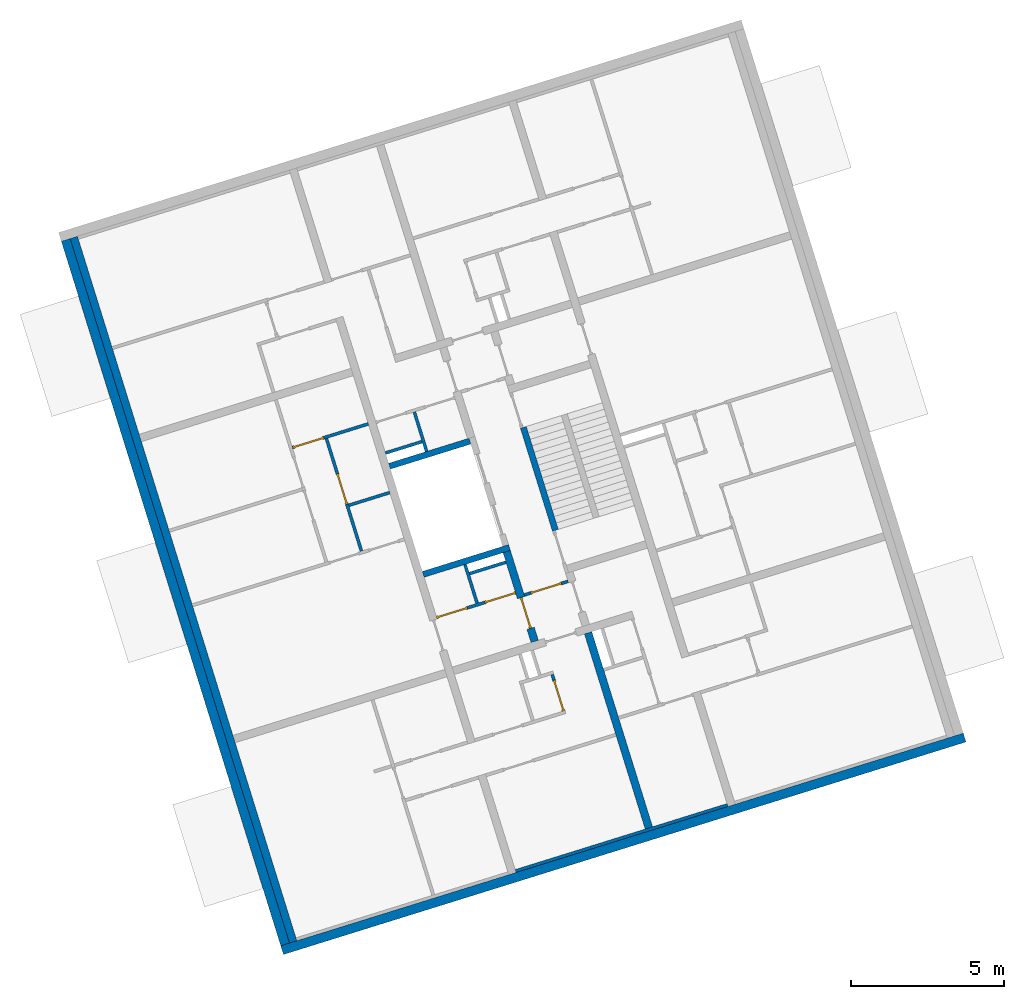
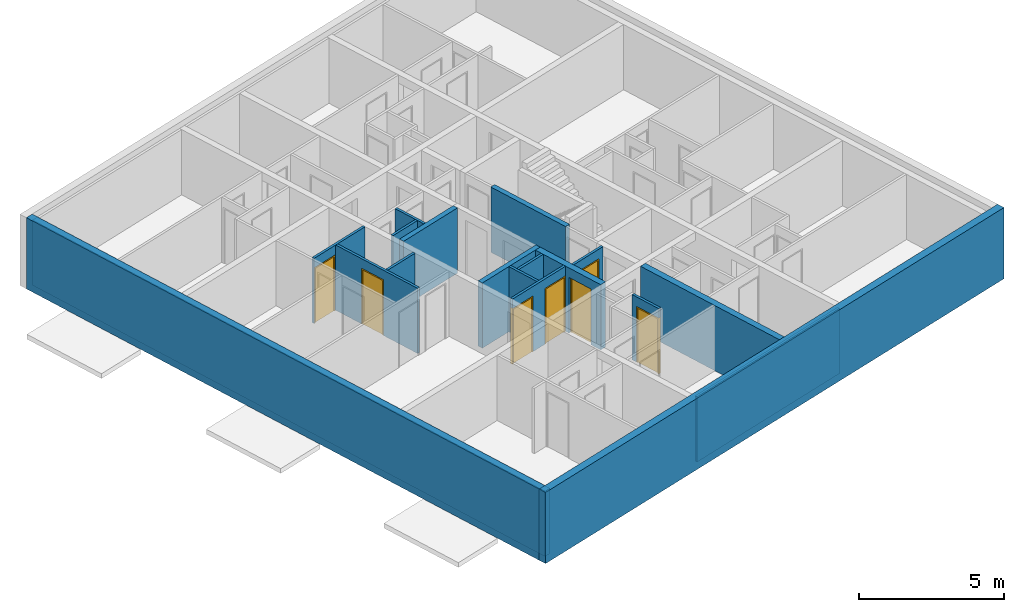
# One storey, part 2 of 9: 19 walls, 7 doors, 7 openings.
"""IFC4 building model written with IfcOpenShell, lengths in metres."""

import ifcopenshell
import ifcopenshell.guid

model = None  # the IFC model being written
_history = None  # IfcOwnerHistory: only IFC2X3 demands one
_inside = {}  # id of a spatial element -> (the spatial element, [elements in it])
_under = {}  # id of a project, library or spatial element -> (it, [spatial elements below it])
_declared = {}  # id of a project -> (the project, [libraries it declares])
_typed = {}  # id of a type object -> (the type object, [elements of that type])
_made_of = {}  # id of a material, layer set ... -> (it, [elements and type objects made of it])


def new_model(schema):
    """Start an empty IFC model of exactly this schema.

    Asked for "IFC4X3", IfcOpenShell would pick the latest addendum, in which some entities
    have other attributes; the version numbers below select the first issue.
    IFC2X3 requires an IfcOwnerHistory on every rooted entity: one is made here for all.
    """
    global model, _history
    if schema == "IFC4X3":
        model = ifcopenshell.file(schema_version=(4, 3, 0, 0))
    else:
        model = ifcopenshell.file(schema=schema)
    _inside.clear()
    _under.clear()
    _declared.clear()
    _typed.clear()
    _made_of.clear()
    _history = None
    if model.schema == "IFC2X3":
        org = make("IfcOrganization", Name="unknown")
        user = make(
            "IfcPersonAndOrganization",
            ThePerson=make("IfcPerson", FamilyName="unknown"),
            TheOrganization=org,
        )
        app = make(
            "IfcApplication",
            ApplicationDeveloper=org,
            Version="unknown",
            ApplicationFullName="unknown",
            ApplicationIdentifier="unknown",
        )
        _history = make(
            "IfcOwnerHistory",
            OwningUser=user,
            OwningApplication=app,
            ChangeAction="ADDED",
            CreationDate=0,
        )
    return model


def make(cls, **values):
    """One entity of the class cls with the attributes given. An attribute that is None is left unset."""
    return model.create_entity(
        cls, **{name: value for name, value in values.items() if value is not None}
    )


def entity(cls, *values):
    """Any entity or typed value of the class cls, its attributes in the order of the schema. None: left unset."""
    e = model.create_entity(cls)
    for i, value in enumerate(values):
        if value is not None:
            e[i] = value
    return e


def rooted(cls, **values):
    """An entity with a GlobalId (a new one), such as an element, a storey or a relation."""
    return make(cls, GlobalId=ifcopenshell.guid.new(), OwnerHistory=_history, **values)


def si_unit(unit_type, name, prefix=None):
    """IfcSIUnit, for example si_unit("LENGTHUNIT", "METRE", prefix="MILLI")."""
    return make("IfcSIUnit", UnitType=unit_type, Prefix=prefix, Name=name)


def converted_unit(unit_type, name, factor, base, dimensions=None, offset=None):
    """IfcConversionBasedUnit, such as the inch: factor (a typed value) times the base unit."""
    return make(
        "IfcConversionBasedUnit"
        if offset is None
        else "IfcConversionBasedUnitWithOffset",
        ConversionOffset=offset,
        Dimensions=None
        if dimensions is None
        else entity("IfcDimensionalExponents", *dimensions),
        UnitType=unit_type,
        Name=name,
        ConversionFactor=make(
            "IfcMeasureWithUnit", ValueComponent=factor, UnitComponent=base
        ),
    )


def assignment(units):
    """IfcUnitAssignment: the units of a project."""
    return None if units is None else make("IfcUnitAssignment", Units=units)


def point(xyz):
    """IfcCartesianPoint."""
    return None if xyz is None else make("IfcCartesianPoint", Coordinates=xyz)


def direction(xyz):
    """IfcDirection."""
    return None if xyz is None else make("IfcDirection", DirectionRatios=xyz)


def frame(location, z_axis=None, x_axis=None):
    """IfcAxis2Placement3D, a coordinate frame: its origin and axes. An axis left out is left unset."""
    return make(
        "IfcAxis2Placement3D",
        Location=point(location),
        Axis=direction(z_axis),
        RefDirection=direction(x_axis),
    )


def origin():
    """The frame at (0, 0, 0) with its axes left unset."""
    return frame((0.0, 0.0, 0.0))


def place(relative_to, where):
    """IfcLocalPlacement: puts the frame where relative to a parent placement (None: the world)."""
    return make(
        "IfcLocalPlacement", PlacementRelTo=relative_to, RelativePlacement=where
    )


def context(
    kind, dimensions, precision=None, world=None, true_north=None, identifier=None
):
    """IfcGeometricRepresentationContext, for example the 3D "Model" context."""
    return make(
        "IfcGeometricRepresentationContext",
        ContextIdentifier=identifier,
        ContextType=kind,
        CoordinateSpaceDimension=dimensions,
        Precision=precision,
        WorldCoordinateSystem=world,
        TrueNorth=true_north,
    )


def subcontext(parent, identifier, kind, view, scale=None):
    """IfcGeometricRepresentationSubContext, for example "Body" below "Model"."""
    return make(
        "IfcGeometricRepresentationSubContext",
        ContextIdentifier=identifier,
        ContextType=kind,
        ParentContext=parent,
        TargetScale=scale,
        TargetView=view,
    )


def project(units=None, contexts=None):
    """IfcProject with its units and contexts."""
    return rooted(
        "IfcProject",
        Name="project",
        RepresentationContexts=contexts,
        UnitsInContext=assignment(units),
    )


def spatial(cls, under=None, at=None, **own):
    """A site, building, storey or space (cls), placed at a placement, below another one or the project."""
    s = rooted(cls, ObjectPlacement=at, **own)
    if under is not None:
        _under.setdefault(under.id(), (under, []))[1].append(s)
    return s


def point_list(points):
    """IfcCartesianPointList2D or 3D."""
    cls = (
        "IfcCartesianPointList2D" if len(points[0]) == 2 else "IfcCartesianPointList3D"
    )
    return make(cls, CoordList=points)


def indexed_curve(points, segments=None, self_intersect=None):
    """IfcIndexedPolyCurve: lines and arcs through numbered points (the first is 1)."""
    return make(
        "IfcIndexedPolyCurve",
        Points=point_list(points),
        Segments=segments,
        SelfIntersect=self_intersect,
    )


def outline(outer, holes=None, kind="AREA"):
    """IfcArbitraryClosedProfileDef: a profile drawn as a closed curve; with holes, ...WithVoids."""
    if holes is None:
        return make("IfcArbitraryClosedProfileDef", ProfileType=kind, OuterCurve=outer)
    return make(
        "IfcArbitraryProfileDefWithVoids",
        ProfileType=kind,
        OuterCurve=outer,
        InnerCurves=holes,
    )


def extrude(swept, where, along, depth):
    """IfcExtrudedAreaSolid: the profile swept, set in the frame where, extruded along a direction by depth."""
    return make(
        "IfcExtrudedAreaSolid",
        SweptArea=swept,
        Position=where,
        ExtrudedDirection=direction(along),
        Depth=depth,
    )


def polygons(points, faces, closed=None, point_numbers=None):
    """IfcPolygonalFaceSet: a face is its outer loop, then its inner loops; points numbered from 1."""
    made = []
    for loops in faces:
        if len(loops) == 1:
            made.append(make("IfcIndexedPolygonalFace", CoordIndex=loops[0]))
        else:
            made.append(
                make(
                    "IfcIndexedPolygonalFaceWithVoids",
                    CoordIndex=loops[0],
                    InnerCoordIndices=loops[1:],
                )
            )
    return make(
        "IfcPolygonalFaceSet",
        Coordinates=point_list(points),
        Closed=closed,
        Faces=made,
        PnIndex=point_numbers,
    )


def shape(context_of_items, identifier, shape_type, items):
    """IfcShapeRepresentation: the items that make up one representation, for example the "Body"."""
    return make(
        "IfcShapeRepresentation",
        ContextOfItems=context_of_items,
        RepresentationIdentifier=identifier,
        RepresentationType=shape_type,
        Items=items,
    )


def source(mapping_origin, context_of_items, identifier, shape_type, items):
    """IfcRepresentationMap: a shape defined once, which mapped items show again and again."""
    return make(
        "IfcRepresentationMap",
        MappingOrigin=mapping_origin,
        MappedRepresentation=shape(context_of_items, identifier, shape_type, items),
    )


def transform(
    local_origin,
    x_axis=None,
    y_axis=None,
    z_axis=None,
    scale=None,
    scale2=None,
    scale3=None,
    uniform=True,
):
    """IfcCartesianTransformationOperator3D, or its non-uniform kind. x_axis, y_axis, z_axis: its Axis1, 2, 3."""
    if uniform:
        return make(
            "IfcCartesianTransformationOperator3D",
            Axis1=direction(x_axis),
            Axis2=direction(y_axis),
            LocalOrigin=point(local_origin),
            Scale=scale,
            Axis3=direction(z_axis),
        )
    return make(
        "IfcCartesianTransformationOperator3DnonUniform",
        Axis1=direction(x_axis),
        Axis2=direction(y_axis),
        LocalOrigin=point(local_origin),
        Scale=scale,
        Axis3=direction(z_axis),
        Scale2=scale2,
        Scale3=scale3,
    )


def mapped(mapping_source, mapping_target):
    """IfcMappedItem: shows the shape of a source again, moved by a transform."""
    return make(
        "IfcMappedItem", MappingSource=mapping_source, MappingTarget=mapping_target
    )


def material(Name=None, Category=None):
    """IfcMaterial."""
    return make("IfcMaterial", Name=Name, Category=Category)


def constituent(of_material, Name=None, Category=None, fraction=None):
    """IfcMaterialConstituent: one of the materials an element consists of."""
    return make(
        "IfcMaterialConstituent",
        Name=Name,
        Material=of_material,
        Fraction=fraction,
        Category=Category,
    )


def constituent_set(constituents=None, Name=None):
    """IfcMaterialConstituentSet."""
    return make(
        "IfcMaterialConstituentSet", Name=Name, MaterialConstituents=constituents
    )


def made_of(thing, what):
    """Note that an element or type object is made of a material, layer set ...; save() writes the relation."""
    if what is not None:
        _made_of.setdefault(what.id(), (what, []))[1].append(thing)
    return thing


def type_object(cls, material=None, **own):
    """A type object (cls), such as IfcWallType, which elements share."""
    return made_of(rooted(cls, **own), material)


def type_shapes(of_type, sources):
    """Give a type object the sources (RepresentationMaps) that its elements show as mapped items."""
    of_type.RepresentationMaps = sources


def element(
    cls,
    number,
    at=None,
    inside=None,
    cuts=None,
    type_object=None,
    material=None,
    context=None,
    identifier="Body",
    shape_type=None,
    held_by="IfcProductDefinitionShape",
    body=None,
    shapes=None,
    **own,
):
    """One element of the class cls, such as IfcWall. Its Tag is "e" and its number.

    at: its placement. inside: the storey or other place that contains it. cuts: it is an
    opening in that element (IfcRelVoidsElement). A single representation is given by context,
    identifier, shape_type and body (its items); several are given by shapes. held_by: the class
    of the entity that holds the representations. save() writes the other relations.
    """
    e = rooted(cls, Tag="e%d" % number, ObjectPlacement=at, **own)
    if body is not None:
        shapes = [shape(context, identifier, shape_type, body)]
    if shapes is not None:
        e.Representation = make(held_by, Representations=shapes)
    if inside is not None:
        _inside.setdefault(inside.id(), (inside, []))[1].append(e)
    if cuts is not None:
        rooted(
            "IfcRelVoidsElement", RelatingBuildingElement=cuts, RelatedOpeningElement=e
        )
    if type_object is not None:
        _typed.setdefault(type_object.id(), (type_object, []))[1].append(e)
    return made_of(e, material)


def fill(opening, filler):
    """IfcRelFillsElement: the door or window that sits in an opening."""
    return rooted(
        "IfcRelFillsElement",
        RelatingOpeningElement=opening,
        RelatedBuildingElement=filler,
    )


def aggregate(whole, parts):
    """IfcRelAggregates: a whole, such as a stair, and the parts it consists of."""
    return rooted("IfcRelAggregates", RelatingObject=whole, RelatedObjects=parts)


def save(model, path):
    """Write the relations noted so far, then the file.

    IfcRelAggregates (storeys below a building ...), IfcRelContainedInSpatialStructure (elements
    in a storey), IfcRelDefinesByType, IfcRelAssociatesMaterial and IfcRelDeclares: one each for
    every whole, place, type object, material and project.
    """
    for whole, parts in _under.values():
        aggregate(whole, parts)
    for where, things in _inside.values():
        rooted(
            "IfcRelContainedInSpatialStructure",
            RelatedElements=things,
            RelatingStructure=where,
        )
    for kind, things in _typed.values():
        rooted("IfcRelDefinesByType", RelatedObjects=things, RelatingType=kind)
    for what, things in _made_of.values():
        rooted("IfcRelAssociatesMaterial", RelatedObjects=things, RelatingMaterial=what)
    for by, libraries in _declared.values():
        rooted("IfcRelDeclares", RelatingContext=by, RelatedDefinitions=libraries)
    model.write(path)


model = new_model("IFC4")

# Units and contexts
model_context = context("Model", 3, precision=1e-05, world=origin(), true_north=direction((6.12323399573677e-17, 1.0)))
body_context = subcontext(model_context, "Body", "Model", "MODEL_VIEW")
ifc_project = project(units=[si_unit("LENGTHUNIT", "METRE"), si_unit("AREAUNIT", "SQUARE_METRE"), si_unit("VOLUMEUNIT", "CUBIC_METRE"), converted_unit("PLANEANGLEUNIT", "DEGREE", entity("IfcPlaneAngleMeasure", 0.0174532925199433), si_unit("PLANEANGLEUNIT", "RADIAN"), dimensions=[0, 0, 0, 0, 0, 0, 0])], contexts=[model_context])

# Site, building, storey
site_placement = place(None, frame((13.1347999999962, 11.9886000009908, 0.0), z_axis=(0.0, 0.0, 1.0), x_axis=(0.954770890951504, 0.297342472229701, 0.0)))
site = spatial("IfcSite", under=ifc_project, at=site_placement, Name="Schiehaven", CompositionType="ELEMENT")
building_placement = place(site_placement, origin())
building = spatial("IfcBuilding", under=site, at=building_placement, Name="VORM huis", CompositionType="ELEMENT")
storey_placement = place(building_placement, frame((0.0, 0.0, 18.9)))
storey = spatial("IfcBuildingStorey", under=building, at=storey_placement, Name="06 zesde verdieping", CompositionType="ELEMENT", Elevation=18.9)

# Walls
ifc_material_1 = material(Name="beton_gewapend_ihw", Category="Miscellaneous")
wall_type_1 = type_object("IfcWallType", Name="Basic Wall:28_WA_skelet_wand 250mm_gen", PredefinedType="STANDARD")
wall_1_placement = place(storey_placement, frame((5.0, 5.0, 0.0), z_axis=(0.0, 0.0, 1.0), x_axis=(0.0, 1.0, 0.0)))
element("IfcWall", 1, at=wall_1_placement, inside=storey, type_object=wall_type_1, material=ifc_material_1, Name="Constructieve wand", ObjectType="Wand", PredefinedType="NOTDEFINED", context=body_context, shape_type="SweptSolid", body=[
    extrude(outline(indexed_curve([(24.1, 0.125), (4.21737840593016e-16, 0.125), (-4.21737840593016e-16, -0.125), (24.1, -0.125), (24.1, 0.125)], self_intersect=False)), origin(), (0.0, 0.0, 1.0), 2.75),
])
ifc_material_2 = material(Name="ntb_ntb_ntb", Category="Miscellaneous")
wall_type_2 = type_object("IfcWallType", Name="Basic Wall:21_WA_gevel_binnenspouwwand 100mm_gen", PredefinedType="STANDARD")
wall_2_placement = place(storey_placement, frame((19.875, 5.04999999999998, 0.0), z_axis=(0.0, 0.0, 1.0), x_axis=(-1.0, 0.0, 0.0)))
element("IfcWall", 2, at=wall_2_placement, inside=storey, type_object=wall_type_2, material=ifc_material_2, Name="Binnenspouwblad", ObjectType="Wand", PredefinedType="NOTDEFINED", context=body_context, shape_type="SweptSolid", body=[
    extrude(outline(indexed_curve([(7.24999999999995, 0.0499999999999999), (-3.39037421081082e-16, 0.0499999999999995), (3.39037421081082e-16, -0.0499999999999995), (7.24999999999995, -0.049999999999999), (7.24999999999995, 0.0499999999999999)], self_intersect=False)), origin(), (0.0, 0.0, 1.0), 2.75),
])
wall_type_3 = type_object("IfcWallType", Name="Basic Wall: 300mm_gen", PredefinedType="STANDARD")
wall_3_placement = place(storey_placement, frame((4.72500000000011, 5.0, 0.0), z_axis=(0.0, 0.0, 1.0), x_axis=(0.0, 1.0, 0.0)))
element("IfcWall", 3, at=wall_3_placement, inside=storey, type_object=wall_type_3, material=ifc_material_2, Name="Gevelwand", ObjectType="Wand", PredefinedType="NOTDEFINED", context=body_context, shape_type="SweptSolid", body=[
    extrude(outline(indexed_curve([(24.1, 0.15), (-1.57429718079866e-16, 0.15), (1.57429718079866e-16, -0.15), (24.1, -0.15), (24.1, 0.15)], self_intersect=False)), origin(), (0.0, 0.0, 1.0), 3.0),
])
wall_4_placement = place(storey_placement, frame((27.9250000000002, 4.84999999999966, 0.0), z_axis=(0.0, 0.0, 1.0), x_axis=(-1.0, 0.0, 0.0)))
element("IfcWall", 4, at=wall_4_placement, inside=storey, type_object=wall_type_3, material=ifc_material_2, Name="Gevelwand", ObjectType="Wand", PredefinedType="NOTDEFINED", context=body_context, shape_type="SweptSolid", body=[
    extrude(outline(indexed_curve([(23.3500000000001, 0.150000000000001), (2.00830454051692e-15, 0.15), (2.32316397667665e-15, -0.15), (23.3500000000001, -0.15), (23.3500000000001, 0.150000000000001)], self_intersect=False)), origin(), (0.0, 0.0, 1.0), 3.0),
])
ifc_material_3 = material(Name="beton_gewapend_prefab-element", Category="Miscellaneous")
wall_type_4 = type_object("IfcWallType", Name="Basic Wall:28_WA_skelet_wand 200mm_gen", PredefinedType="STANDARD")
wall_5_placement = place(storey_placement, frame((12.6250000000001, 15.2, 0.0)))
element("IfcWall", 5, at=wall_5_placement, inside=storey, type_object=wall_type_4, material=ifc_material_3, Name="Constructieve wand", ObjectType="Wand", PredefinedType="NOTDEFINED", context=body_context, shape_type="SweptSolid", body=[
    extrude(outline(indexed_curve([(2.9500000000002, 0.100000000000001), (-3.51397851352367e-16, 0.100000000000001), (3.51397851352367e-16, -0.100000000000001), (2.9500000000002, -0.100000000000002), (2.9500000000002, 0.100000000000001)], self_intersect=False)), origin(), (0.0, 0.0, 1.0), 2.75),
])
wall_6_placement = place(storey_placement, frame((15.3750000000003, 18.9, 0.0), z_axis=(0.0, 0.0, 1.0), x_axis=(-1.0, 0.0, 0.0)))
element("IfcWall", 6, at=wall_6_placement, inside=storey, type_object=wall_type_4, material=ifc_material_3, Name="Constructieve wand", ObjectType="Wand", PredefinedType="NOTDEFINED", context=body_context, shape_type="SweptSolid", body=[
    extrude(outline(indexed_curve([(2.75000000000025, 0.100000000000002), (-2.05391259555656e-16, 0.100000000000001), (2.05391259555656e-16, -0.100000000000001), (2.75000000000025, -0.0999999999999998), (2.75000000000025, 0.100000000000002)], self_intersect=False)), origin(), (0.0, 0.0, 1.0), 2.75),
])
wall_7_placement = place(storey_placement, frame((17.1750000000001, 15.29, 0.0), z_axis=(0.0, 0.0, 1.0), x_axis=(0.0, 1.0, 0.0)))
element("IfcWall", 7, at=wall_7_placement, inside=storey, type_object=wall_type_4, material=ifc_material_3, Name="Constructieve wand", ObjectType="Wand", PredefinedType="NOTDEFINED", context=body_context, shape_type="SweptSolid", body=[
    extrude(outline(indexed_curve([(3.52, 0.0999999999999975), (-5.13023966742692e-16, 0.0999999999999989), (5.13023966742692e-16, -0.0999999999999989), (3.52, -0.1), (3.52, 0.0999999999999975)], self_intersect=False)), origin(), (0.0, 0.0, 1.0), 2.75),
])
wall_type_5 = type_object("IfcWallType", Name="Basic Wall:22_WA_afbouw_binnenwand 250mm_gen", PredefinedType="STANDARD")
wall_8_placement = place(storey_placement, frame((17.2000000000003, 11.7749999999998, 0.0), z_axis=(0.0, 0.0, 1.0), x_axis=(0.0, -1.0, 0.0)))
element("IfcWall", 8, at=wall_8_placement, inside=storey, type_object=wall_type_5, material=ifc_material_2, Name="Binnenwand", ObjectType="Wand", PredefinedType="NOTDEFINED", context=body_context, shape_type="SweptSolid", body=[
    extrude(outline(indexed_curve([(6.67500000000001, 0.125), (2.50179154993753e-16, 0.125), (-2.50179154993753e-16, -0.125), (6.67500000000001, -0.124999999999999), (6.67500000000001, 0.125)], self_intersect=False)), origin(), (0.0, 0.0, 1.0), 2.75),
])

# Wall, opening, door
wall_9_placement = place(storey_placement, frame((15.4500000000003, 15.0999999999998, 0.0), z_axis=(0.0, 0.0, 1.0), x_axis=(0.0, -1.0, 0.0)))
wall_9 = element("IfcWall", 9, at=wall_9_placement, inside=storey, type_object=wall_type_5, material=ifc_material_2, Name="Binnenwand", ObjectType="Wand", PredefinedType="NOTDEFINED", context=body_context, shape_type="Tessellation", body=[
    polygons([(2.62500000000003, -0.124999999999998, 2.34999999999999), (2.62500000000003, -0.124999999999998, 0.0), (3.07499999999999, -0.124999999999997, 0.0), (3.07499999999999, -0.124999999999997, 2.75), (0.0, -0.124999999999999, 2.75), (0.0, -0.124999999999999, 0.0), (1.57500000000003, -0.125, 0.0), (1.57500000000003, -0.125, 2.34999999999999), (3.07499999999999, 0.125000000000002, 0.0), (2.62500000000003, 0.125000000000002, 0.0), (2.62500000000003, 0.125000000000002, 2.34999999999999), (1.57500000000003, 0.125000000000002, 2.34999999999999), (1.57500000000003, 0.125000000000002, 0.0), (1.475, 0.125000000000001, 0.0), (0.0, 0.125, 0.0), (0.0, 0.125, 2.75), (1.475, 0.125000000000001, 2.75), (1.575, 0.125000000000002, 2.75), (3.07499999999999, 0.125000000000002, 2.75)], [[[1, 2, 3, 4, 5, 6, 7, 8]], [[9, 10, 11, 12, 13, 14, 15, 16, 17, 18, 19]], [[7, 6, 15, 14, 13]], [[4, 3, 9, 19]], [[5, 4, 19, 18, 17, 16]], [[6, 5, 16, 15]], [[13, 12, 8, 7]], [[11, 10, 2, 1]], [[12, 11, 1, 8]], [[3, 2, 10, 9]]], closed=True),
])
opening_1_placement = place(wall_9_placement, frame((1.57500000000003, -0.125000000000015, 0.0)))
opening_1 = element("IfcOpeningElement", 10, at=opening_1_placement, cuts=wall_9, Name="Woningtoegangsdeur", PredefinedType="OPENING", context=body_context, shape_type="SweptSolid", body=[
    extrude(outline(indexed_curve([(2.34999999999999, 1.35358391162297e-15), (2.34999999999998, 1.05), (0.0, 1.05), (2.16573425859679e-15, 1.35358391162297e-15), (2.34999999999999, 1.35358391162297e-15)], self_intersect=False)), frame((0.0, 0.0, 0.0), z_axis=(0.0, 1.0, 0.0), x_axis=(0.0, 0.0, 1.0)), (0.0, 0.0, 1.0), 0.25),
])
ifc_material_4 = material(Name="PD_a_binnenwandopeningen", Category="Miscellaneous")
ifc_constituent_1 = constituent(ifc_material_4, Name="PD_a_binnenwandopeningen", Category="Miscellaneous")
ifc_material_5 = material(Name="metaal_aluminium_ntb", Category="Miscellaneous")
ifc_constituent_2 = constituent(ifc_material_5, Name="metaal_aluminium_ntb", Category="Miscellaneous")
ifc_constituent_set_1 = constituent_set(constituents=[ifc_constituent_1, ifc_constituent_2])
door_type_1 = type_object("IfcDoorType", Name="32_DO_binnendeur enkel:woningtoegangsdeur", OperationType="REVOLVING", PredefinedType="DOOR")
shared_shape_1 = source(origin(), body_context, "Body", "SweptSolid", [
    extrude(outline(indexed_curve([(0.475, -1.16249999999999), (0.525000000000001, -1.16249999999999), (0.525000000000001, 1.18749999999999), (-0.525000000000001, 1.18749999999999), (-0.525000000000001, -1.16249999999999), (-0.475, -1.16249999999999), (-0.475, 1.13749999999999), (0.475, 1.13749999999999), (0.475, -1.16249999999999)], self_intersect=False)), frame((0.525000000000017, 0.174999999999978, 1.16249999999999), z_axis=(0.0, -1.0, 0.0), x_axis=(1.0, 0.0, 0.0)), (0.0, 0.0, 1.0), 0.1),
    extrude(outline(indexed_curve([(-0.475, -0.025), (0.475, -0.025), (0.475, 0.025), (-0.475, 0.025), (-0.475, -0.025)], self_intersect=False)), frame((0.525000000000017, 0.12499999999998, 0.0)), (0.0, 0.0, 1.0), 2.29999999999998),
])
door_1_placement = place(opening_1_placement, origin())
door_1 = element("IfcDoor", 11, at=door_1_placement, inside=storey, type_object=door_type_1, material=ifc_constituent_set_1, Name="Woningtoegangsdeur", ObjectType="Deur", OperationType="REVOLVING", OverallHeight=2.34999999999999, OverallWidth=1.05, PredefinedType="DOOR", context=body_context, shape_type="MappedRepresentation", body=[
    mapped(shared_shape_1, transform((0.0, 0.0, 0.0), scale=1.0)),
])
fill(opening_1, door_1)

wall_type_6 = type_object("IfcWallType", Name="Basic Wall:22_WA_afbouw_binnenwand 100mm_gen", PredefinedType="STANDARD")
wall_10_placement = place(storey_placement, frame((17.0750000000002, 13.5749999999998, 0.0), z_axis=(0.0, 0.0, 1.0), x_axis=(-1.0, 0.0, 0.0)))
wall_10 = element("IfcWall", 12, at=wall_10_placement, inside=storey, type_object=wall_type_6, material=ifc_material_2, Name="Binnenwand", ObjectType="Wand", PredefinedType="NOTDEFINED", context=body_context, shape_type="Tessellation", body=[
    polygons([(1.50000000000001, -0.0499999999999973, 2.75), (-5.48799231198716e-16, -0.0499999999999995, 2.75), (-5.48799231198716e-16, -0.0499999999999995, 0.0), (0.225, -0.0499999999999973, 0.0), (0.225000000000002, -0.0500000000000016, 2.34999999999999), (1.275, -0.0499999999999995, 2.34999999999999), (1.275, -0.0499999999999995, 0.0), (1.50000000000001, -0.0499999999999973, 0.0), (-4.9311163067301e-16, 0.0500000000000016, 2.75), (1.5, 0.0499999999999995, 2.75), (1.5, 0.0499999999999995, 2.34999999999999), (1.5, 0.0499999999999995, 0.0), (1.275, 0.0499999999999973, 0.0), (1.275, 0.0499999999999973, 2.34999999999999), (0.225, 0.0499999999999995, 2.34999999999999), (0.225, 0.0499999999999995, 0.0), (-4.9311163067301e-16, 0.0500000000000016, 0.0), (-4.93111630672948e-16, 0.0499999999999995, 2.34999999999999)], [[[1, 2, 3, 4, 5, 6, 7, 8]], [[9, 10, 11, 12, 13, 14, 15, 16, 17, 18]], [[3, 17, 16, 4]], [[2, 1, 10, 9]], [[15, 5, 4, 16]], [[5, 15, 14, 6]], [[6, 14, 13, 7]], [[3, 2, 9, 18, 17]], [[1, 8, 12, 11, 10]], [[12, 8, 7, 13]]], closed=True),
])
opening_2_placement = place(wall_10_placement, frame((1.275, 0.0499999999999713, 0.0)))
opening_2 = element("IfcOpeningElement", 13, at=opening_2_placement, cuts=wall_10, Name="Vluchtdeur", PredefinedType="OPENING", context=body_context, shape_type="SweptSolid", body=[
    extrude(outline(indexed_curve([(2.34999999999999, 1.35358391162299e-15), (2.34999999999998, 1.05), (0.0, 1.05), (2.16573425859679e-15, 1.35358391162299e-15), (2.34999999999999, 1.35358391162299e-15)], self_intersect=False)), frame((0.0, 0.0, 0.0), z_axis=(0.0, -1.0, 0.0), x_axis=(0.0, 0.0, 1.0)), (0.0, 0.0, 1.0), 0.1),
])
ifc_constituent_3 = constituent(ifc_material_4, Name="PD_a_binnenwandopeningen", Category="Miscellaneous")
ifc_constituent_4 = constituent(ifc_material_5, Name="metaal_aluminium_ntb", Category="Miscellaneous")
ifc_constituent_set_2 = constituent_set(constituents=[ifc_constituent_3, ifc_constituent_4])
door_type_2 = type_object("IfcDoorType", Name="32_DO_binnendeur enkel:binnendeur zelfsluitend 30min", OperationType="NOTDEFINED", PredefinedType="DOOR")
shared_shape_2 = source(origin(), body_context, "Body", "SweptSolid", [
    extrude(outline(indexed_curve([(0.475, -1.16249999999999), (0.525, -1.16249999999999), (0.525, 1.18749999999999), (-0.525, 1.18749999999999), (-0.525, -1.16249999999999), (-0.475, -1.16249999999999), (-0.475, 1.13749999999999), (0.475, 1.13749999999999), (0.475, -1.16249999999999)], self_intersect=False)), frame((0.525000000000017, 0.100000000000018, 1.16249999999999), z_axis=(0.0, -1.0, 0.0), x_axis=(1.0, 0.0, 0.0)), (0.0, 0.0, 1.0), 0.1),
    extrude(outline(indexed_curve([(-0.475, -0.025), (0.475, -0.025), (0.475, 0.025), (-0.475, 0.025), (-0.475, -0.025)], self_intersect=False)), frame((0.525000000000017, 0.0499999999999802, 0.0)), (0.0, 0.0, 1.0), 2.29999999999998),
])
door_2_placement = place(opening_2_placement, frame((0.0, 0.0, 0.0), z_axis=(0.0, 0.0, 1.0), x_axis=(-1.0, 0.0, 0.0)))
door_2 = element("IfcDoor", 14, at=door_2_placement, inside=storey, type_object=door_type_2, material=ifc_constituent_set_2, Name="Vluchtdeur", ObjectType="Deur", OperationType="NOTDEFINED", OverallHeight=2.34999999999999, OverallWidth=1.05, PredefinedType="DOOR", context=body_context, shape_type="MappedRepresentation", body=[
    mapped(shared_shape_2, transform((0.0, 0.0, 0.0), scale=1.0)),
])
fill(opening_2, door_2)

wall_11_placement = place(storey_placement, frame((15.6750000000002, 9.57499999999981, 0.0), z_axis=(0.0, 0.0, 1.0), x_axis=(0.0, 1.0, 0.0)))
wall_11 = element("IfcWall", 15, at=wall_11_placement, inside=storey, type_object=wall_type_6, material=ifc_material_2, Name="Binnenwand", ObjectType="Wand", PredefinedType="NOTDEFINED", context=body_context, shape_type="Tessellation", body=[
    polygons([(1.25, -0.0499999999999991, 2.75), (1.08286712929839e-15, -0.0499999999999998, 2.75), (1.08286712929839e-15, -0.0499999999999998, 2.34999999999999), (1.05, -0.050000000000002, 2.34999999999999), (1.05, -0.050000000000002, 2.16573425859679e-15), (1.25, -0.0499999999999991, 2.16573425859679e-15), (0.0, 0.0500000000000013, 2.75), (1.25, 0.0499999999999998, 2.75), (1.25, 0.0499999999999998, 2.16573425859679e-15), (1.05, 0.0499999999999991, 2.16573425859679e-15), (1.05, 0.0499999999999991, 2.34999999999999), (0.0, 0.0500000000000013, 2.34999999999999)], [[[1, 2, 3, 4, 5, 6]], [[7, 8, 9, 10, 11, 12]], [[9, 6, 5, 10]], [[2, 1, 8, 7]], [[4, 11, 10, 5]], [[11, 4, 3, 12]], [[1, 6, 9, 8]], [[2, 7, 12, 3]]], closed=True),
])
opening_3_placement = place(wall_11_placement, frame((1.05, 0.0499999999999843, 0.0)))
opening_3 = element("IfcOpeningElement", 16, at=opening_3_placement, cuts=wall_11, Name="Binnendeur", PredefinedType="OPENING", context=body_context, shape_type="SweptSolid", body=[
    extrude(outline(indexed_curve([(2.34999999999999, 1.05), (0.0, 1.05), (0.0, 1.35358391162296e-15), (2.34999999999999, 1.35358391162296e-15), (2.34999999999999, 1.05)], self_intersect=False)), frame((0.0, 0.0, 0.0), z_axis=(0.0, -1.0, 0.0), x_axis=(0.0, 0.0, 1.0)), (0.0, 0.0, 1.0), 0.1),
])
ifc_constituent_5 = constituent(ifc_material_4, Name="PD_a_binnenwandopeningen", Category="Miscellaneous")
ifc_constituent_6 = constituent(ifc_material_5, Name="metaal_aluminium_ntb", Category="Miscellaneous")
ifc_constituent_set_3 = constituent_set(constituents=[ifc_constituent_5, ifc_constituent_6])
door_type_3 = type_object("IfcDoorType", Name="32_DO_binnendeur enkel:binnendeur", OperationType="REVOLVING", PredefinedType="DOOR")
shared_shape_3 = source(origin(), body_context, "Body", "SweptSolid", [
    extrude(outline(indexed_curve([(-1.16249999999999, -0.525000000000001), (1.18749999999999, -0.525), (1.18749999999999, 0.525), (-1.16249999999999, 0.525), (-1.16249999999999, 0.475), (1.13749999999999, 0.475), (1.13749999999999, -0.475), (-1.16249999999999, -0.475), (-1.16249999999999, -0.525000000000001)], self_intersect=False)), frame((0.525000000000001, 0.0, 1.16249999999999), z_axis=(0.0, 1.0, 0.0), x_axis=(0.0, 0.0, 1.0)), (0.0, 0.0, 1.0), 0.1),
    extrude(outline(indexed_curve([(-0.025, -0.475), (0.025, -0.475), (0.025, 0.475), (-0.025, 0.475), (-0.025, -0.475)], self_intersect=False)), frame((0.525000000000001, 0.0499999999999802, 0.0), z_axis=(0.0, 0.0, 1.0), x_axis=(0.0, 1.0, 0.0)), (0.0, 0.0, 1.0), 2.29999999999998),
])
type_shapes(door_type_3, [shared_shape_3])
door_3_placement = place(opening_3_placement, frame((0.0, 0.0, 0.0), z_axis=(0.0, 0.0, 1.0), x_axis=(-1.0, 0.0, 0.0)))
door_3 = element("IfcDoor", 17, at=door_3_placement, inside=storey, type_object=door_type_3, material=ifc_constituent_set_3, Name="Binnendeur", ObjectType="Deur", OperationType="REVOLVING", OverallHeight=2.34999999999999, OverallWidth=1.05, PredefinedType="DOOR", context=body_context, shape_type="MappedRepresentation", body=[
    mapped(shared_shape_3, transform((0.0, 0.0, 0.0), scale=1.0)),
])
fill(opening_3, door_3)

# Walls
wall_12_placement = place(storey_placement, frame((13.9250000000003, 19.0, 0.0), z_axis=(0.0, 0.0, 1.0), x_axis=(0.0, 1.0, 0.0)))
element("IfcWall", 18, at=wall_12_placement, inside=storey, type_object=wall_type_6, material=ifc_material_2, Name="Binnenwand", ObjectType="Wand", PredefinedType="NOTDEFINED", context=body_context, shape_type="SweptSolid", body=[
    extrude(outline(indexed_curve([(1.34999999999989, 0.05), (-2.17202003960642e-17, 0.0499999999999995), (2.17202003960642e-17, -0.0499999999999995), (1.34999999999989, -0.0499999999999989), (1.34999999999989, 0.05)], self_intersect=False)), origin(), (0.0, 0.0, 1.0), 2.75000000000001),
])
wall_13_placement = place(storey_placement, frame((12.6250000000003, 19.3499999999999, 0.0)))
element("IfcWall", 19, at=wall_13_placement, inside=storey, type_object=wall_type_6, material=ifc_material_2, Name="Binnenwand", ObjectType="Wand", PredefinedType="NOTDEFINED", context=body_context, shape_type="SweptSolid", body=[
    extrude(outline(indexed_curve([(1.25000000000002, 0.0500000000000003), (9.21562864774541e-16, 0.0499999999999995), (-9.21562864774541e-16, -0.0499999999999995), (1.25000000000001, -0.0499999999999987), (1.25000000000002, 0.0500000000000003)], self_intersect=False)), origin(), (0.0, 0.0, 1.0), 2.75),
])

# Wall, opening, door
wall_14_placement = place(storey_placement, frame((9.77500000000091, 20.4250000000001, 0.0)))
wall_14 = element("IfcWall", 20, at=wall_14_placement, inside=storey, type_object=wall_type_6, material=ifc_material_2, Name="Binnenwand", ObjectType="Wand", PredefinedType="NOTDEFINED", context=body_context, shape_type="Tessellation", body=[
    polygons([(1.075, -0.0499999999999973, 2.34999999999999), (1.075, -0.0499999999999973, 2.16573425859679e-15), (1.1, -0.0499999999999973, 2.16573425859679e-15), (1.2, -0.0499999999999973, 2.16573425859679e-15), (2.59999999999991, -0.0499999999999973, 2.16573425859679e-15), (2.59999999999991, -0.0499999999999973, 2.75), (1.2, -0.0499999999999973, 2.75), (1.1, -0.0499999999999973, 2.75), (9.59700802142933e-16, -0.0499999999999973, 2.75), (9.59700802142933e-16, -0.0499999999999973, 2.16573425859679e-15), (0.0250000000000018, -0.0499999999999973, 2.16573425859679e-15), (0.0250000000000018, -0.0499999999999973, 2.34999999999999), (2.59999999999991, 0.0500000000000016, 2.16573425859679e-15), (1.075, 0.0500000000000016, 2.16573425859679e-15), (1.075, 0.0500000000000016, 2.34999999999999), (0.0250000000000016, 0.0500000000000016, 2.34999999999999), (0.0250000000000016, 0.0500000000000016, 2.16573425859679e-15), (8.26229172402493e-16, 0.0500000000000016, 2.16573425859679e-15), (8.26229172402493e-16, 0.0500000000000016, 2.75), (2.59999999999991, 0.0500000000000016, 2.75)], [[[1, 2, 3, 4, 5, 6, 7, 8, 9, 10, 11, 12]], [[13, 14, 15, 16, 17, 18, 19, 20]], [[11, 10, 18, 17]], [[6, 5, 13, 20]], [[9, 8, 7, 6, 20, 19]], [[10, 9, 19, 18]], [[17, 16, 12, 11]], [[15, 14, 2, 1]], [[16, 15, 1, 12]], [[5, 4, 3, 2, 14, 13]]], closed=True),
])
opening_4_placement = place(wall_14_placement, frame((1.075, 0.0500000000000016, 0.0)))
opening_4 = element("IfcOpeningElement", 21, at=opening_4_placement, cuts=wall_14, Name="Binnendeur", PredefinedType="OPENING", context=body_context, shape_type="SweptSolid", body=[
    extrude(outline(indexed_curve([(2.34999999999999, 1.05), (0.0, 1.05), (0.0, 1.35358391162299e-15), (2.34999999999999, 1.35358391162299e-15), (2.34999999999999, 1.05)], self_intersect=False)), frame((0.0, 0.0, 0.0), z_axis=(0.0, -1.0, 0.0), x_axis=(0.0, 0.0, 1.0)), (0.0, 0.0, 1.0), 0.1),
])
ifc_constituent_7 = constituent(ifc_material_4, Name="PD_a_binnenwandopeningen", Category="Miscellaneous")
ifc_constituent_8 = constituent(ifc_material_5, Name="metaal_aluminium_ntb", Category="Miscellaneous")
ifc_constituent_set_4 = constituent_set(constituents=[ifc_constituent_7, ifc_constituent_8])
door_4_placement = place(opening_4_placement, frame((0.0, 0.0, 0.0), z_axis=(0.0, 0.0, 1.0), x_axis=(-1.0, 0.0, 0.0)))
door_4 = element("IfcDoor", 22, at=door_4_placement, inside=storey, type_object=door_type_3, material=ifc_constituent_set_4, Name="Binnendeur", ObjectType="Deur", OperationType="REVOLVING", OverallHeight=2.34999999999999, OverallWidth=1.05, PredefinedType="DOOR", context=body_context, shape_type="MappedRepresentation", body=[
    mapped(shared_shape_3, transform((0.0, 0.0, 0.0), scale=1.0)),
])
fill(opening_4, door_4)

wall_15_placement = place(storey_placement, frame((10.9250000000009, 20.3750000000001, 0.0), z_axis=(0.0, 0.0, 1.0), x_axis=(0.0, -1.0, 0.0)))
wall_15 = element("IfcWall", 23, at=wall_15_placement, inside=storey, type_object=wall_type_6, material=ifc_material_2, Name="Binnenwand", ObjectType="Wand", PredefinedType="NOTDEFINED", context=body_context, shape_type="Tessellation", body=[
    polygons([(2.25000000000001, -0.0500000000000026, 2.34999999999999), (2.25000000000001, -0.0500000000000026, 2.16573425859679e-15), (3.85000000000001, -0.0500000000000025, 2.16573425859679e-15), (3.85000000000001, -0.0500000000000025, 2.75), (0.0, -0.0500000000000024, 2.75), (0.0, -0.0500000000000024, 2.16573425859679e-15), (1.20000000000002, -0.0500000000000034, 2.16573425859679e-15), (1.20000000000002, -0.0500000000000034, 2.34999999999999), (3.85000000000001, 0.0499999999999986, 2.16573425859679e-15), (2.35000000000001, 0.0499999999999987, 2.16573425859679e-15), (2.25000000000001, 0.0499999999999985, 2.16573425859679e-15), (2.25000000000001, 0.0499999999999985, 2.34999999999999), (1.20000000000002, 0.0499999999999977, 2.34999999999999), (1.20000000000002, 0.0499999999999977, 2.16573425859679e-15), (0.0, 0.0499999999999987, 2.16573425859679e-15), (0.0, 0.0499999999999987, 2.75), (2.25000000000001, 0.0499999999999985, 2.75), (2.35000000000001, 0.0499999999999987, 2.75), (3.85000000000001, 0.0499999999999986, 2.75)], [[[1, 2, 3, 4, 5, 6, 7, 8]], [[9, 10, 11, 12, 13, 14, 15, 16, 17, 18, 19]], [[7, 6, 15, 14]], [[5, 4, 19, 18, 17, 16]], [[6, 5, 16, 15]], [[4, 3, 9, 19]], [[14, 13, 8, 7]], [[12, 11, 2, 1]], [[13, 12, 1, 8]], [[3, 2, 11, 10, 9]]], closed=True),
])
opening_5_placement = place(wall_15_placement, frame((2.25000000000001, 0.0499999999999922, 0.0)))
opening_5 = element("IfcOpeningElement", 24, at=opening_5_placement, cuts=wall_15, Name="Binnendeur", PredefinedType="OPENING", context=body_context, shape_type="SweptSolid", body=[
    extrude(outline(indexed_curve([(2.34999999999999, 1.05), (0.0, 1.05), (0.0, 1.35358391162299e-15), (2.34999999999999, 1.35358391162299e-15), (2.34999999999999, 1.05)], self_intersect=False)), frame((0.0, 0.0, 0.0), z_axis=(0.0, -1.0, 0.0), x_axis=(0.0, 0.0, 1.0)), (0.0, 0.0, 1.0), 0.1),
])
ifc_constituent_9 = constituent(ifc_material_4, Name="PD_a_binnenwandopeningen", Category="Miscellaneous")
ifc_constituent_10 = constituent(ifc_material_5, Name="metaal_aluminium_ntb", Category="Miscellaneous")
ifc_constituent_set_5 = constituent_set(constituents=[ifc_constituent_9, ifc_constituent_10])
door_5_placement = place(opening_5_placement, frame((0.0, 0.0, 0.0), z_axis=(0.0, 0.0, 1.0), x_axis=(-1.0, 0.0, 0.0)))
door_5 = element("IfcDoor", 25, at=door_5_placement, inside=storey, type_object=door_type_3, material=ifc_constituent_set_5, Name="Binnendeur", ObjectType="Deur", OperationType="REVOLVING", OverallHeight=2.34999999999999, OverallWidth=1.05, PredefinedType="DOOR", context=body_context, shape_type="MappedRepresentation", body=[
    mapped(shared_shape_3, transform((0.0, 0.0, 0.0), scale=1.0)),
])
fill(opening_5, door_5)

# Wall, openings, doors
wall_16_placement = place(storey_placement, frame((15.3250000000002, 13.7249999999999, 0.0), z_axis=(0.0, 0.0, 1.0), x_axis=(-1.0, 0.0, 0.0)))
wall_16 = element("IfcWall", 26, at=wall_16_placement, inside=storey, type_object=wall_type_6, material=ifc_material_2, Name="Binnenwand", ObjectType="Wand", PredefinedType="NOTDEFINED", context=body_context, shape_type="Tessellation", body=[
    polygons([(2.70000000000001, -0.0499999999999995, 2.75), (1.34999999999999, -0.0500000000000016, 2.75), (1.24999999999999, -0.0500000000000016, 2.75), (-4.01061899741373e-16, -0.0499999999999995, 2.75), (-4.01061899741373e-16, -0.0499999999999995, 2.34999999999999), (1.04999999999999, -0.0500000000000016, 2.34999999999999), (1.04999999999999, -0.0500000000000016, 2.16573425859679e-15), (1.24999999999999, -0.0500000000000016, 2.16573425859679e-15), (1.34999999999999, -0.0500000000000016, 2.16573425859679e-15), (1.65000000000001, -0.0500000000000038, 2.16573425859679e-15), (1.65000000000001, -0.0500000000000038, 2.34999999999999), (2.70000000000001, -0.0499999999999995, 2.34999999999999), (-1.04276093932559e-15, 0.0499999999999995, 2.75), (2.70000000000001, 0.0499999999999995, 2.75), (2.70000000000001, 0.0499999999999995, 2.34999999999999), (1.65000000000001, 0.0499999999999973, 2.34999999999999), (1.65000000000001, 0.0499999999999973, 2.16573425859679e-15), (1.05, 0.0500000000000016, 2.16573425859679e-15), (1.05, 0.0500000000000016, 2.34999999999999), (-1.04276093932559e-15, 0.0499999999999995, 2.34999999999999)], [[[1, 2, 3, 4, 5, 6, 7, 8, 9, 10, 11, 12]], [[13, 14, 15, 16, 17, 18, 19, 20]], [[7, 18, 17, 10, 9, 8]], [[14, 1, 12, 15]], [[4, 3, 2, 1, 14, 13]], [[4, 13, 20, 5]], [[6, 19, 18, 7]], [[19, 6, 5, 20]], [[16, 11, 10, 17]], [[11, 16, 15, 12]]], closed=True),
])
opening_6_placement = place(wall_16_placement, frame((0.0, -0.0500000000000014, 0.0)))
opening_6 = element("IfcOpeningElement", 27, at=opening_6_placement, cuts=wall_16, Name="Binnendeur", PredefinedType="OPENING", context=body_context, shape_type="SweptSolid", body=[
    extrude(outline(indexed_curve([(2.34999999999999, 1.05), (0.0, 1.05), (0.0, 1.35358391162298e-15), (2.34999999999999, 1.35358391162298e-15), (2.34999999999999, 1.05)], self_intersect=False)), frame((0.0, 0.0, 0.0), z_axis=(0.0, 1.0, 0.0), x_axis=(0.0, 0.0, 1.0)), (0.0, 0.0, 1.0), 0.1),
])
opening_7_placement = place(wall_16_placement, frame((1.65000000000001, -0.0500000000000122, 0.0)))
opening_7 = element("IfcOpeningElement", 28, at=opening_7_placement, cuts=wall_16, Name="Binnendeur", PredefinedType="OPENING", context=body_context, shape_type="SweptSolid", body=[
    extrude(outline(indexed_curve([(2.34999999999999, 1.05), (0.0, 1.05), (0.0, 1.35358391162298e-15), (2.34999999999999, 1.35358391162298e-15), (2.34999999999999, 1.05)], self_intersect=False)), frame((0.0, 0.0, 0.0), z_axis=(0.0, 1.0, 0.0), x_axis=(0.0, 0.0, 1.0)), (0.0, 0.0, 1.0), 0.1),
])
ifc_constituent_11 = constituent(ifc_material_4, Name="PD_a_binnenwandopeningen", Category="Miscellaneous")
ifc_constituent_12 = constituent(ifc_material_5, Name="metaal_aluminium_ntb", Category="Miscellaneous")
ifc_constituent_set_6 = constituent_set(constituents=[ifc_constituent_11, ifc_constituent_12])
door_6_placement = place(opening_6_placement, origin())
door_6 = element("IfcDoor", 29, at=door_6_placement, inside=storey, type_object=door_type_3, material=ifc_constituent_set_6, Name="Binnendeur", ObjectType="Deur", OperationType="REVOLVING", OverallHeight=2.34999999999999, OverallWidth=1.05, PredefinedType="DOOR", context=body_context, shape_type="MappedRepresentation", body=[
    mapped(shared_shape_3, transform((0.0, 0.0, 0.0), scale=1.0)),
])
fill(opening_6, door_6)
ifc_constituent_13 = constituent(ifc_material_4, Name="PD_a_binnenwandopeningen", Category="Miscellaneous")
ifc_constituent_14 = constituent(ifc_material_5, Name="metaal_aluminium_ntb", Category="Miscellaneous")
ifc_constituent_set_7 = constituent_set(constituents=[ifc_constituent_13, ifc_constituent_14])
door_7_placement = place(opening_7_placement, origin())
door_7 = element("IfcDoor", 30, at=door_7_placement, inside=storey, type_object=door_type_3, material=ifc_constituent_set_7, Name="Binnendeur", ObjectType="Deur", OperationType="REVOLVING", OverallHeight=2.34999999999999, OverallWidth=1.05, PredefinedType="DOOR", context=body_context, shape_type="MappedRepresentation", body=[
    mapped(shared_shape_3, transform((0.0, 0.0, 0.0), scale=1.0)),
])
fill(opening_7, door_7)

# Walls
wall_17_placement = place(storey_placement, frame((15.3250000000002, 14.7749999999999, 0.0), z_axis=(0.0, 0.0, 1.0), x_axis=(-1.0, 0.0, 0.0)))
element("IfcWall", 31, at=wall_17_placement, inside=storey, type_object=wall_type_6, material=ifc_material_2, Name="Binnenwand", ObjectType="Wand", PredefinedType="NOTDEFINED", context=body_context, shape_type="SweptSolid", body=[
    extrude(outline(indexed_curve([(1.24999999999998, 0.050000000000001), (-3.20849519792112e-16, 0.0499999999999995), (3.20849519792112e-16, -0.0499999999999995), (1.24999999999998, -0.0499999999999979), (1.24999999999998, 0.050000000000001)], self_intersect=False)), origin(), (0.0, 0.0, 1.0), 2.75),
])
wall_18_placement = place(storey_placement, frame((14.0250000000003, 13.7749999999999, 0.0), z_axis=(0.0, 0.0, 1.0), x_axis=(0.0, 1.0, 0.0)))
element("IfcWall", 32, at=wall_18_placement, inside=storey, type_object=wall_type_6, material=ifc_material_2, Name="Binnenwand", ObjectType="Wand", PredefinedType="NOTDEFINED", context=body_context, shape_type="SweptSolid", body=[
    extrude(outline(indexed_curve([(1.32500000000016, 0.05), (-1.03130202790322e-16, 0.0499999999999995), (1.03130202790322e-16, -0.0499999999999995), (1.32500000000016, -0.0499999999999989), (1.32500000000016, 0.05)], self_intersect=False)), origin(), (0.0, 0.0, 1.0), 2.75),
])
wall_19_placement = place(storey_placement, frame((12.3771642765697, 18.075, 0.0), z_axis=(0.0, 0.0, 1.0), x_axis=(-1.0, 0.0, 0.0)))
element("IfcWall", 33, at=wall_19_placement, inside=storey, type_object=wall_type_6, material=ifc_material_2, Name="Binnenwand", ObjectType="Wand", PredefinedType="NOTDEFINED", context=body_context, shape_type="SweptSolid", body=[
    extrude(outline(indexed_curve([(1.40216427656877, 0.05), (-3.2845023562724e-16, 0.0499999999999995), (3.2845023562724e-16, -0.0499999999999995), (1.40216427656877, -0.0499999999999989), (1.40216427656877, 0.05)], self_intersect=False)), origin(), (0.0, 0.0, 1.0), 2.75),
])

save(model, "model.ifc")
